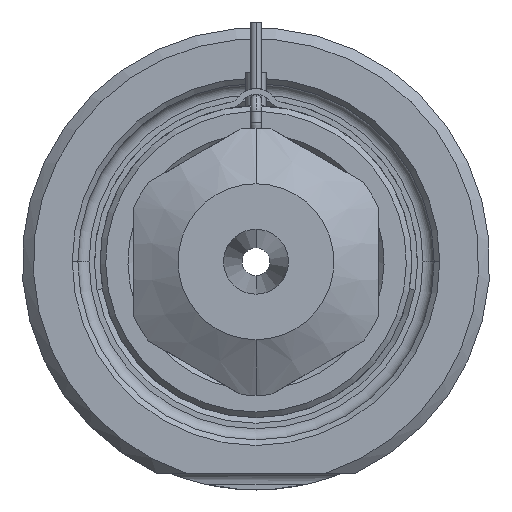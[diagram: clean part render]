
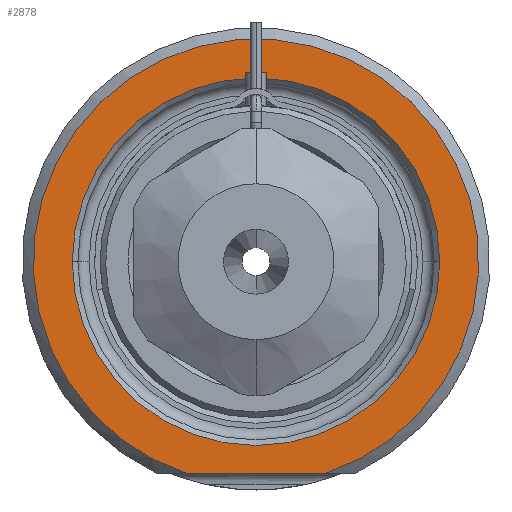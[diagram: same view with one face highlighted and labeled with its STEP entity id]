
A CAD part, front view. The second image highlights one B-rep face of the part: STEP entity #2878.
In plain terms, the highlighted planar face has unit normal (0, -1, 0).
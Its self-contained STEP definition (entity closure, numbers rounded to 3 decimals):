
#1=DIRECTION('',(1.,0.,0.));
#2=VECTOR('',#1,12.49);
#3=CARTESIAN_POINT('',(-6.245,0.,-19.));
#4=LINE('',#3,#2);
#5=CARTESIAN_POINT('',(0.,0.,0.));
#6=DIRECTION('',(0.,1.,0.));
#7=DIRECTION('',(-1.,0.,0.));
#8=AXIS2_PLACEMENT_3D('',#5,#6,#7);
#10=CARTESIAN_POINT('',(0.,0.,0.));
#11=DIRECTION('',(0.,1.,0.));
#12=DIRECTION('',(1.,0.,0.));
#13=AXIS2_PLACEMENT_3D('',#10,#11,#12);
#119=CARTESIAN_POINT('',(0.,0.,0.));
#120=DIRECTION('',(0.,-1.,0.));
#121=DIRECTION('',(0.312,0.,-0.95));
#122=AXIS2_PLACEMENT_3D('',#119,#120,#121);
#2399=CARTESIAN_POINT('',(-16.5,0.,0.));
#2400=CARTESIAN_POINT('',(16.5,0.,0.));
#2401=VERTEX_POINT('',#2399);
#2402=VERTEX_POINT('',#2400);
#2439=CARTESIAN_POINT('',(-6.245,0.,-19.));
#2440=CARTESIAN_POINT('',(6.245,0.,-19.));
#2441=VERTEX_POINT('',#2439);
#2442=VERTEX_POINT('',#2440);
#2861=CARTESIAN_POINT('',(0.,0.,0.));
#2862=DIRECTION('',(0.,-1.,0.));
#2863=DIRECTION('',(1.,0.,0.));
#2864=AXIS2_PLACEMENT_3D('',#2861,#2862,#2863);
#2865=PLANE('',#2864);
#2867=ORIENTED_EDGE('',*,*,#2866,.F.);
#2869=ORIENTED_EDGE('',*,*,#2868,.F.);
#2870=EDGE_LOOP('',(#2867,#2869));
#2871=FACE_OUTER_BOUND('',#2870,.F.);
#2873=ORIENTED_EDGE('',*,*,#2872,.F.);
#2875=ORIENTED_EDGE('',*,*,#2874,.F.);
#2876=EDGE_LOOP('',(#2873,#2875));
#2877=FACE_BOUND('',#2876,.F.);
#2878=ADVANCED_FACE('',(#2871,#2877),#2865,.T.);
#9=CIRCLE('',#8,16.5);
#14=CIRCLE('',#13,16.5);
#123=CIRCLE('',#122,20.);
#2866=EDGE_CURVE('',#2441,#2442,#4,.T.);
#2868=EDGE_CURVE('',#2442,#2441,#123,.T.);
#2872=EDGE_CURVE('',#2401,#2402,#9,.T.);
#2874=EDGE_CURVE('',#2402,#2401,#14,.T.);
